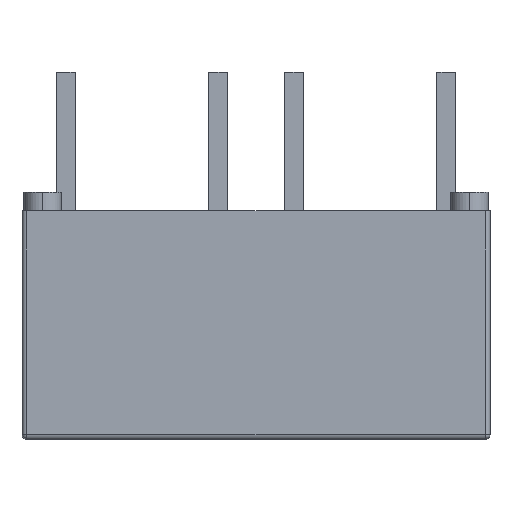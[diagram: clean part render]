
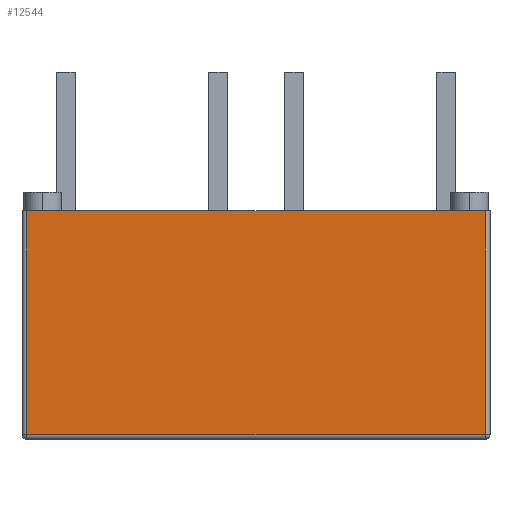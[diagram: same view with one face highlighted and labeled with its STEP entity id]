
A CAD part, top view. The second image highlights one B-rep face of the part: STEP entity #12544.
In plain terms, the highlighted planar face has unit normal (0, 0, 1).
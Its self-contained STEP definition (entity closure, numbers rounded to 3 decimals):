
#33 = CARTESIAN_POINT ( 'NONE',  ( 6.123, 3.05, 1.85 ) ) ;
#57 = LINE ( 'NONE', #6457, #13596 ) ;
#127 = DIRECTION ( 'NONE',  ( 1., 0., 0. ) ) ;
#1461 = EDGE_CURVE ( 'NONE', #7588, #6755, #5567, .T. ) ;
#1796 = LINE ( 'NONE', #7917, #5216 ) ;
#2646 = DIRECTION ( 'NONE',  ( 0., -1., 0. ) ) ;
#3152 = ORIENTED_EDGE ( 'NONE', *, *, #10328, .T. ) ;
#4673 = LINE ( 'NONE', #9105, #8994 ) ;
#4713 = ORIENTED_EDGE ( 'NONE', *, *, #7538, .T. ) ;
#5165 = ORIENTED_EDGE ( 'NONE', *, *, #1461, .T. ) ;
#5216 = VECTOR ( 'NONE', #2646, 1000. ) ;
#5559 = CARTESIAN_POINT ( 'NONE',  ( 6.123, -2.923, 1.85 ) ) ;
#5567 = LINE ( 'NONE', #8764, #10821 ) ;
#5680 = AXIS2_PLACEMENT_3D ( 'NONE', #13663, #6369, #10609 ) ;
#6361 = EDGE_LOOP ( 'NONE', ( #12899, #3152, #4713, #5165 ) ) ;
#6369 = DIRECTION ( 'NONE',  ( 0., 0., -1. ) ) ;
#6457 = CARTESIAN_POINT ( 'NONE',  ( -6.25, -2.923, 1.85 ) ) ;
#6466 = DIRECTION ( 'NONE',  ( 0., 1., 0. ) ) ;
#6755 = VERTEX_POINT ( 'NONE', #33 ) ;
#7538 = EDGE_CURVE ( 'NONE', #10149, #7588, #57, .T. ) ;
#7588 = VERTEX_POINT ( 'NONE', #5559 ) ;
#7759 = CARTESIAN_POINT ( 'NONE',  ( -6.123, 3.05, 1.85 ) ) ;
#7917 = CARTESIAN_POINT ( 'NONE',  ( -6.123, 3.05, 1.85 ) ) ;
#8764 = CARTESIAN_POINT ( 'NONE',  ( 6.123, 3.05, 1.85 ) ) ;
#8994 = VECTOR ( 'NONE', #10920, 1000. ) ;
#9105 = CARTESIAN_POINT ( 'NONE',  ( -6.25, 3.05, 1.85 ) ) ;
#9644 = CARTESIAN_POINT ( 'NONE',  ( -6.123, -2.923, 1.85 ) ) ;
#10149 = VERTEX_POINT ( 'NONE', #9644 ) ;
#10328 = EDGE_CURVE ( 'NONE', #10699, #10149, #1796, .T. ) ;
#10542 = FACE_OUTER_BOUND ( 'NONE', #6361, .T. ) ;
#10609 = DIRECTION ( 'NONE',  ( -1., 0., 0. ) ) ;
#10699 = VERTEX_POINT ( 'NONE', #7759 ) ;
#10821 = VECTOR ( 'NONE', #6466, 1000. ) ;
#10920 = DIRECTION ( 'NONE',  ( 1., 0., 0. ) ) ;
#11368 = EDGE_CURVE ( 'NONE', #10699, #6755, #4673, .T. ) ;
#12544 = ADVANCED_FACE ( 'NONE', ( #10542 ), #12892, .F. ) ;
#12892 = PLANE ( 'NONE',  #5680 ) ;
#12899 = ORIENTED_EDGE ( 'NONE', *, *, #11368, .F. ) ;
#13596 = VECTOR ( 'NONE', #127, 1000. ) ;
#13663 = CARTESIAN_POINT ( 'NONE',  ( -6.25, 3.05, 1.85 ) ) ;
